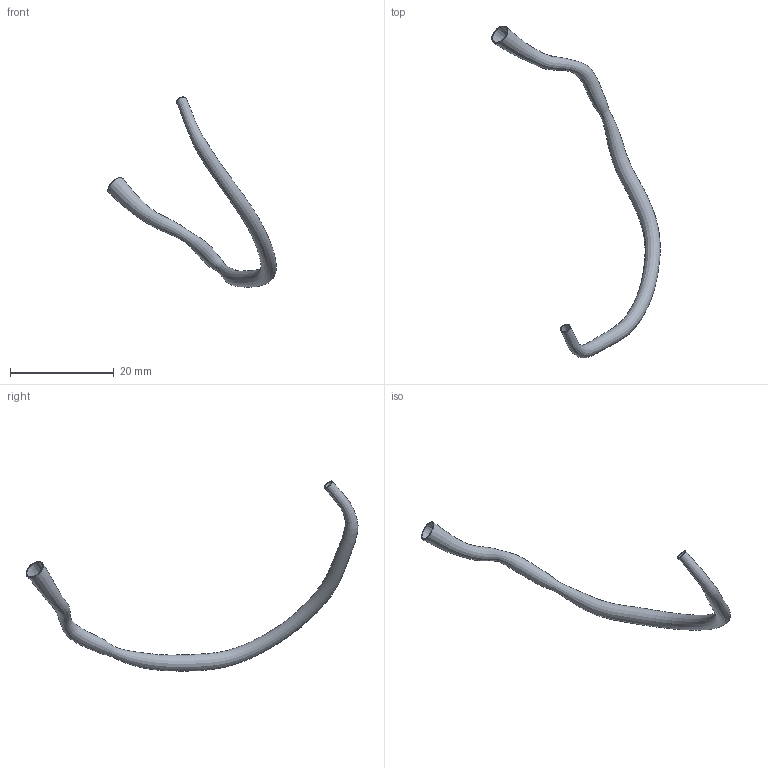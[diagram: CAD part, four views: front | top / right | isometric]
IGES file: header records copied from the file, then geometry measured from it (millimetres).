
Global section: file name: C:\Documents and Settings\Administrator\Desktop\FDA Bifurcation win\RawData_for_IGES\HRCA_Data\20030611.195803\IGES\20030611.195803.RCA.SEG.ES.igs; native system: Rhinoceros ( May 19 2006 ); preprocessor: Trout Lake IGES 012 May 19 2006; date: 100728.223303; units: centimetre
Bounding box: 32.51 x 64.09 x 36.7 mm (x, y, z)
Surface area: 1789.6 mm2 (no closed solid volume)
Topology: 0 solids, 0 shells, 4 faces, 12 edges, 8 vertices
Faces by surface type: bspline 4
